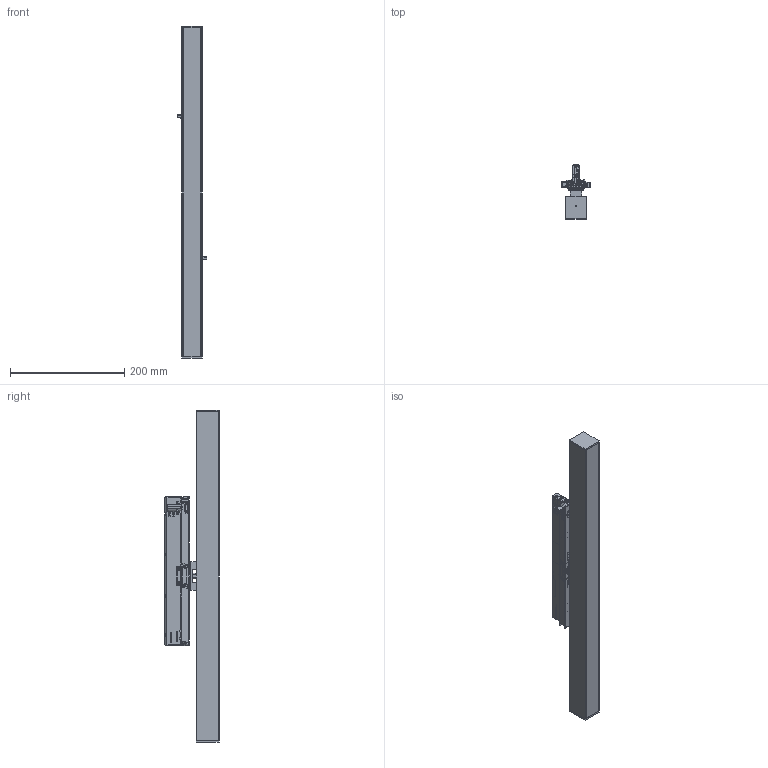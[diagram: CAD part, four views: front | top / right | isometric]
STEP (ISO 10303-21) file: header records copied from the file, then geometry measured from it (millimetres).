
FILE_DESCRIPTION (( 'STEP AP214' ), '1' );
FILE_NAME ('mLight Pico 2B 580mm Track Module.STEP', '2024-06-04T03:33:41', ( '' ), ( '' ), 'SwSTEP 2.0', 'SolidWorks 2021', '' );
FILE_SCHEMA (( 'AUTOMOTIVE_DESIGN' ));
Length unit declared in the file: millimetre
Products named in the file (7): Tridonic Nipple M10 x 1mm; RMEC0334 - Pico Endcap; Part9^Zelle Linear 3 CCT Track Module; flat head screw_am_M4 x 10mm Philips CSK; mLight Pico 2B 580mm Track Module; Evelo Track adaptor bracket RevC; Tridonic Track Driver LC 40W NFC_White Body
Assembly tree (8 placements, depth 2):
  mLight Pico 2B 580mm Track Module
    Evelo Track adaptor bracket RevC
    Tridonic Track Driver LC 40W NFC_White Body
    Tridonic Nipple M10 x 1mm
    flat head screw_am_M4 x 10mm Philips CSK  x2
    Part9^Zelle Linear 3 CCT Track Module
    RMEC0334 - Pico Endcap  x2
Bounding box: 51.07 x 94.55 x 580 mm (x, y, z)
Volume: 796711.8 mm3; surface area: 213939.2 mm2
Topology: 7 solids, 20 shells, 5494 faces, 15220 edges, 9685 vertices
Faces by surface type: plane 2490, cylinder 1577, bspline 1049, torus 176, cone 159, sphere 43
Full cylindrical faces by diameter (mm): 2.5 x2, 3.3 x2, 4 x2, 8.4 x2
Entity records: 365255 total; most frequent: CARTESIAN_POINT 222635, ORIENTED_EDGE 30237, DIRECTION 17610, EDGE_CURVE 15133, VERTEX_POINT 9645, B_SPLINE_CURVE_WITH_KNOTS 7624, VECTOR 6120, LINE 6120
